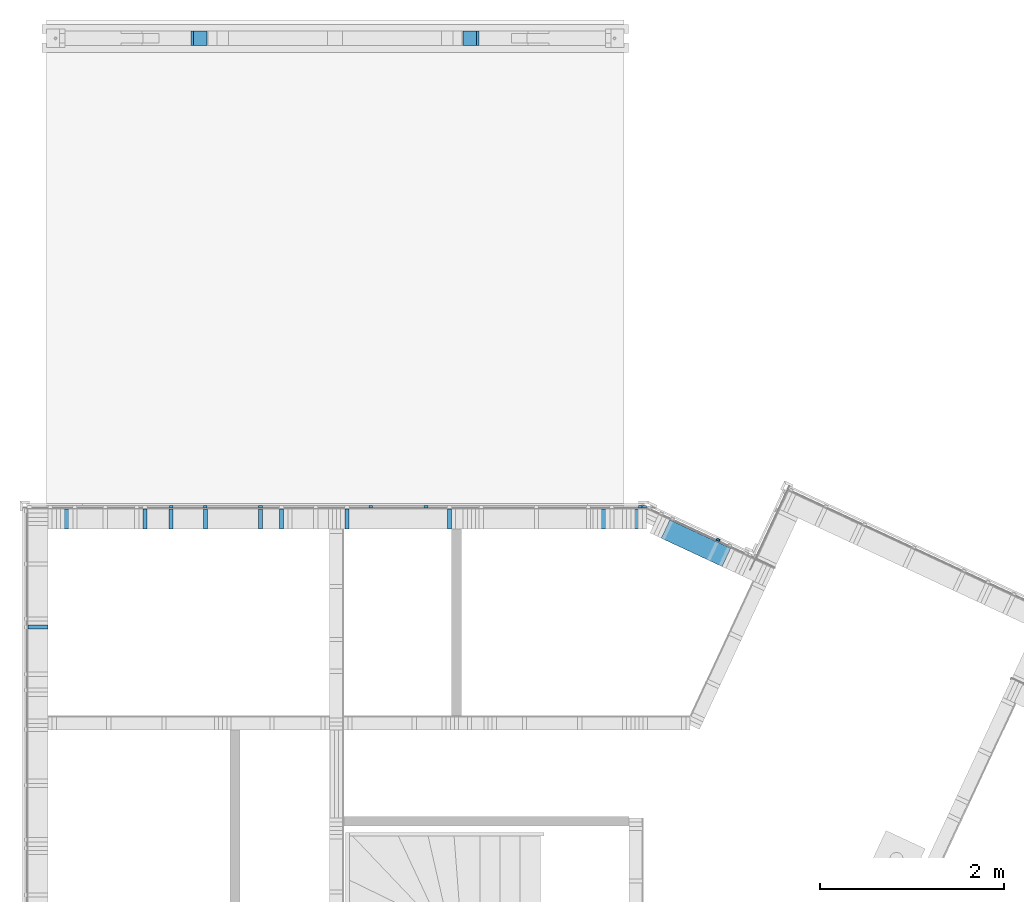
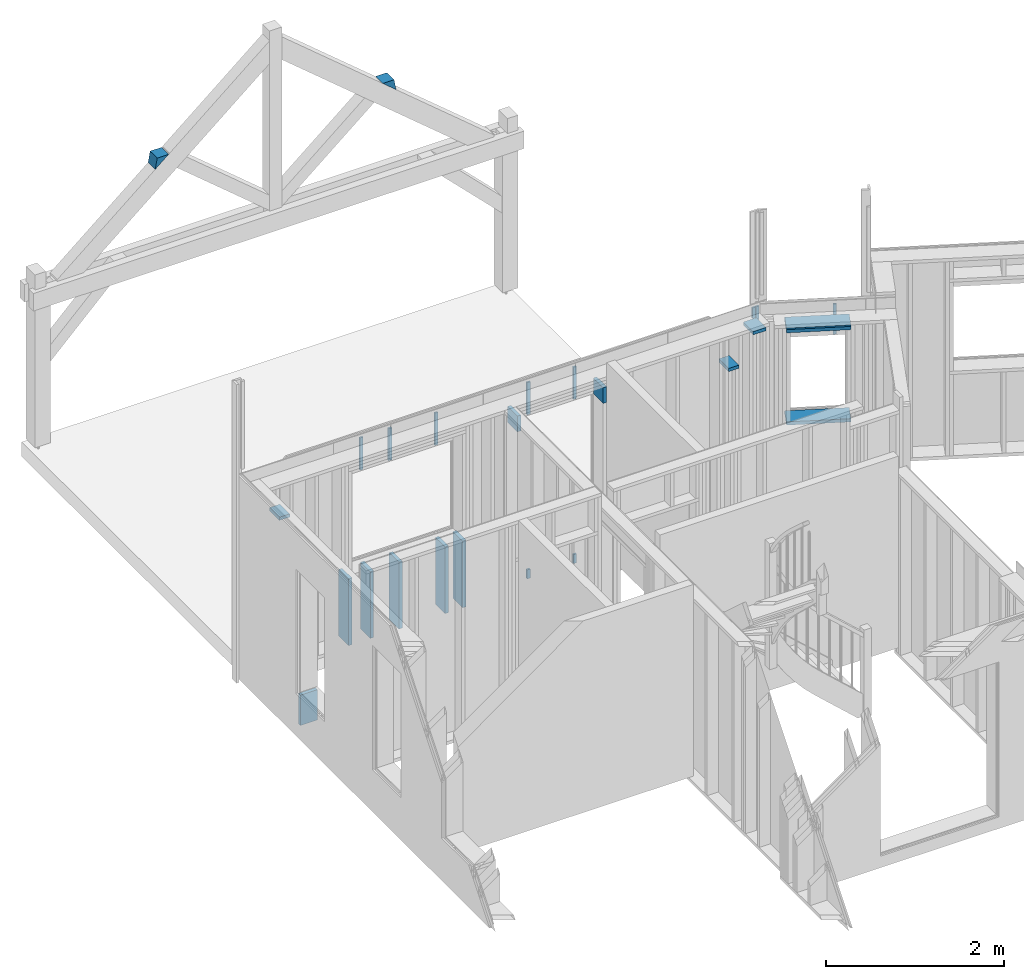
# One storey, part 20 of 34: 26 members.
"""IFC2X3 building model written with IfcOpenShell, lengths in metres."""

from ifc_helpers import new_model, si_unit, direction, frame, origin_with_axes, place, context, subcontext, project, spatial, faceted_brep, material, element, save


model = new_model("IFC2X3")

# Units and contexts
model_context = context("Model", 3, precision=1e-06, world=origin_with_axes(), true_north=direction((0.0, 1.0, 0.0)))
body_context = subcontext(model_context, "Body", "Model", "MODEL_VIEW")
ifc_project = project(units=[si_unit("LENGTHUNIT", "METRE"), si_unit("AREAUNIT", "SQUARE_METRE"), si_unit("VOLUMEUNIT", "CUBIC_METRE"), si_unit("PLANEANGLEUNIT", "RADIAN")], contexts=[model_context])

# Site, building, storey
site_placement = place(None, origin_with_axes())
site = spatial("IfcSite", under=ifc_project, at=site_placement, CompositionType="ELEMENT")
building_placement = place(site_placement, origin_with_axes())
building = spatial("IfcBuilding", under=site, at=building_placement, Name="Building 1", CompositionType="ELEMENT")
storey_placement = place(building_placement, origin_with_axes())
storey = spatial("IfcBuildingStorey", under=building, at=storey_placement, Name="Rez de chaussée", CompositionType="ELEMENT", Elevation=0.0)

# Members
ifc_material_1 = material(Name="Epicéa C24")
for number, where, z_axis, x_axis, name in (
    (1, (3.7431423, 7.921, 2.703), (0.0, 1.0, 0.0), (0.0, 0.0, -1.0), "latte 27/40"),
    (2, (4.3431423, 7.921, 2.703), (0.0, 1.0, 0.0), (0.0, 0.0, -1.0), "latte 27/40"),
):
    element("IfcMember", number, at=place(storey_placement, frame(where, z_axis=z_axis, x_axis=x_axis)), inside=storey, material=ifc_material_1, Name=name, context=body_context, shape_type="Brep", body=[
        faceted_brep([(0.443, 0.02, -0.012), (0.443, 0.02, 0.012), (0.443, -0.02, 0.012), (0.443, -0.02, -0.012), (0.0, 0.02, 0.012), (0.0, 0.02, -0.012), (0.0, -0.02, -0.012), (0.0, -0.02, 0.012)], [[[0, 1, 2, 3]], [[4, 5, 6, 7]], [[3, 6, 5, 0]], [[2, 7, 6, 3]], [[1, 4, 7, 2]], [[0, 5, 4, 1]]]),
    ])
member_1_placement = place(storey_placement, frame((3.7431423, 7.921, 0.129), z_axis=(0.0, 1.0, 0.0), x_axis=(0.0, 0.0, -1.0)))
element("IfcMember", 3, at=member_1_placement, inside=storey, material=ifc_material_1, Name="latte 27/40", context=body_context, shape_type="Brep", body=[
    faceted_brep([(0.124, 0.02, -0.012), (0.124, 0.02, 0.012), (0.124, -0.02, 0.012), (0.124, -0.02, -0.012), (0.0, 0.02, 0.012), (0.0, 0.02, -0.012), (0.0, -0.02, -0.012), (0.0, -0.02, 0.012)], [[[0, 1, 2, 3]], [[4, 5, 6, 7]], [[3, 6, 5, 0]], [[2, 7, 6, 3]], [[1, 4, 7, 2]], [[0, 5, 4, 1]]]),
])
for number, where, z_axis, x_axis, name in (
    (4, (2.5431423, 7.786, 1.007), (0.0, 1.0, 0.0), (0.0, 0.0, -1.0), "Montant"),
    (5, (1.9431423, 7.786, 1.007), (0.0, 1.0, 0.0), (0.0, 0.0, -1.0), "Montant"),
    (6, (1.5705712, 7.786, 1.007), (0.0, 1.0, 0.0), (0.0, 0.0, -1.0), "Montant"),
):
    element("IfcMember", number, at=place(storey_placement, frame(where, z_axis=z_axis, x_axis=x_axis)), inside=storey, material=ifc_material_1, Name=name, context=body_context, shape_type="Brep", body=[
        faceted_brep([(0.0, -0.0225, -0.11), (0.0, -0.0225, 0.11), (0.0, 0.0225, 0.11), (0.0, 0.0225, -0.11), (0.917, -0.0225, 0.11), (0.917, 0.0225, 0.11), (0.917, -0.0225, -0.11), (0.917, 0.0225, -0.11)], [[[0, 1, 2, 3]], [[2, 1, 4, 5]], [[1, 0, 6, 4]], [[0, 3, 7, 6]], [[6, 7, 5, 4]], [[3, 2, 5, 7]]]),
    ])
for number, where, z_axis, x_axis, name in (
    (7, (1.9431423, 7.921, 2.703), (0.0, 1.0, 0.0), (0.0, 0.0, -1.0), "latte 27/40"),
    (8, (1.5705712, 7.921, 2.703), (0.0, 1.0, 0.0), (0.0, 0.0, -1.0), "latte 27/40"),
):
    element("IfcMember", number, at=place(storey_placement, frame(where, z_axis=z_axis, x_axis=x_axis)), inside=storey, material=ifc_material_1, Name=name, context=body_context, shape_type="Brep", body=[
        faceted_brep([(0.443, 0.02, -0.012), (0.443, 0.02, 0.012), (0.443, -0.02, 0.012), (0.443, -0.02, -0.012), (0.0, 0.02, 0.012), (0.0, 0.02, -0.012), (0.0, -0.02, -0.012), (0.0, -0.02, 0.012)], [[[0, 1, 2, 3]], [[4, 5, 6, 7]], [[3, 6, 5, 0]], [[2, 7, 6, 3]], [[1, 4, 7, 2]], [[0, 5, 4, 1]]]),
    ])
member_2_placement = place(storey_placement, frame((4.3431423, 7.921, 0.129), z_axis=(0.0, 1.0, 0.0), x_axis=(0.0, 0.0, -1.0)))
element("IfcMember", 9, at=member_2_placement, inside=storey, material=ifc_material_1, Name="latte 27/40", context=body_context, shape_type="Brep", body=[
    faceted_brep([(0.124, 0.02, -0.012), (0.124, 0.02, 0.012), (0.124, -0.02, 0.012), (0.124, -0.02, -0.012), (0.0, 0.02, 0.012), (0.0, 0.02, -0.012), (0.0, -0.02, -0.012), (0.0, -0.02, 0.012)], [[[0, 1, 2, 3]], [[4, 5, 6, 7]], [[3, 6, 5, 0]], [[2, 7, 6, 3]], [[1, 4, 7, 2]], [[0, 5, 4, 1]]]),
])
member_3_placement = place(storey_placement, frame((6.6736423, 7.921, 2.703), z_axis=(0.0, 1.0, 0.0), x_axis=(0.0, 0.0, -1.0)))
element("IfcMember", 10, at=member_3_placement, inside=storey, material=ifc_material_1, Name="latte 27/40", context=body_context, shape_type="Brep", body=[
    faceted_brep([(0.145459, 0.02, -0.012), (0.145459, 0.02, 0.012), (0.145459, -0.02, 0.012), (0.145459, -0.02, -0.012), (0.0, 0.02, 0.012), (0.0, 0.02, -0.012), (0.0, -0.02, -0.012), (0.0, -0.02, 0.012)], [[[0, 1, 2, 3]], [[4, 5, 6, 7]], [[3, 6, 5, 0]], [[2, 7, 6, 3]], [[1, 4, 7, 2]], [[0, 5, 4, 1]]]),
])
member_4_placement = place(storey_placement, frame((2.5431423, 7.921, 2.703), z_axis=(0.0, 1.0, 0.0), x_axis=(0.0, 0.0, -1.0)))
element("IfcMember", 11, at=member_4_placement, inside=storey, material=ifc_material_1, Name="latte 27/40", context=body_context, shape_type="Brep", body=[
    faceted_brep([(0.443, 0.02, -0.012), (0.443, 0.02, 0.012), (0.443, -0.02, 0.012), (0.443, -0.02, -0.012), (0.0, 0.02, 0.012), (0.0, 0.02, -0.012), (0.0, -0.02, -0.012), (0.0, -0.02, 0.012)], [[[0, 1, 2, 3]], [[4, 5, 6, 7]], [[3, 6, 5, 0]], [[2, 7, 6, 3]], [[1, 4, 7, 2]], [[0, 5, 4, 1]]]),
])
ifc_material_2 = material(Name="NH II")
member_5_placement = place(storey_placement, frame((4.7765096, 13.0145, 3.4471192), z_axis=(0.6427876, 0.0, 0.7660444), x_axis=(0.7660444, 0.0, -0.6427876)))
element("IfcMember", 12, at=member_5_placement, inside=storey, material=ifc_material_2, Name="Echantignole", context=body_context, shape_type="Brep", body=[
    faceted_brep([(0.2268755, 0.08, -0.0475928), (0.2268755, -0.08, -0.0475928), (0.0, -0.08, -0.0475928), (0.0, 0.08, -0.0475928), (0.1134377, -0.08, 0.0475928), (0.1134377, 0.08, 0.0475928)], [[[0, 1, 2, 3]], [[2, 1, 4]], [[1, 0, 5, 4]], [[3, 2, 4, 5]], [[0, 3, 5]]]),
])
member_6_placement = place(storey_placement, frame((1.9314904, 13.0145, 3.4471192), z_axis=(-0.6427876, 0.0, 0.7660444), x_axis=(-0.7660444, 0.0, -0.6427876)))
element("IfcMember", 13, at=member_6_placement, inside=storey, material=ifc_material_2, Name="Echantignole", context=body_context, shape_type="Brep", body=[
    faceted_brep([(0.2268755, 0.08, -0.0475928), (0.2268755, -0.08, -0.0475928), (0.0, -0.08, -0.0475928), (0.0, 0.08, -0.0475928), (0.1134377, -0.08, 0.0475928), (0.1134377, 0.08, 0.0475928)], [[[0, 1, 2, 3]], [[2, 1, 4]], [[1, 0, 5, 4]], [[0, 3, 5]], [[3, 2, 4, 5]]]),
])
member_7_placement = place(storey_placement, frame((0.122, 6.6106735, 0.507), z_axis=(-1.0, 0.0, 0.0), x_axis=(0.0, 0.0, -1.0)))
element("IfcMember", 14, at=member_7_placement, inside=storey, material=ifc_material_1, Name="Montant", context=body_context, shape_type="Brep", body=[
    faceted_brep([(0.417, -0.0225, -0.11), (0.417, 0.0225, -0.11), (0.417, 0.0225, 0.11), (0.417, -0.0225, 0.11), (0.0, 0.0225, 0.11), (0.0, -0.0225, 0.11), (0.0, 0.0225, -0.11), (0.0, -0.0225, -0.11)], [[[0, 1, 2, 3]], [[4, 5, 3, 2]], [[6, 4, 2, 1]], [[7, 6, 1, 0]], [[5, 7, 0, 3]], [[7, 5, 4, 6]]]),
])
member_8_placement = place(storey_placement, frame((7.5198036, 7.5604887, 2.675), z_axis=(0.4226183, 0.9063078, 0.0), x_axis=(0.0, 0.0, -1.0)))
element("IfcMember", 15, at=member_8_placement, inside=storey, material=ifc_material_1, Name="latte 27/40", context=body_context, shape_type="Brep", body=[
    faceted_brep([(0.415, -0.02, -0.012), (0.415, -0.02, 0.012), (0.0, -0.02, 0.012), (0.0, -0.02, -0.012), (0.415, 0.02, -0.012), (0.0, 0.02, -0.012), (0.415, 0.02, 0.012), (0.0, 0.02, 0.012)], [[[0, 1, 2, 3]], [[4, 0, 3, 5]], [[6, 4, 5, 7]], [[1, 6, 7, 2]], [[0, 4, 6, 1]], [[2, 7, 5, 3]]]),
])
for number, where, z_axis, x_axis, name in (
    (16, (4.598, 7.786, 2.478), (0.0, 1.0, 0.0), (0.0, 0.0, -1.0), "Montant"),
    (17, (3.483, 7.786, 2.478), (0.0, 1.0, 0.0), (0.0, 0.0, -1.0), "Montant"),
):
    element("IfcMember", number, at=place(storey_placement, frame(where, z_axis=z_axis, x_axis=x_axis)), inside=storey, material=ifc_material_1, Name=name, context=body_context, shape_type="Brep", body=[
        faceted_brep([(0.0, 0.0225, 0.11), (0.0, 0.0225, -0.11), (0.0, -0.0225, -0.11), (0.0, -0.0225, 0.11), (0.218, 0.0225, -0.11), (0.218, -0.0225, -0.11), (0.218, 0.0225, 0.11), (0.218, -0.0225, 0.11)], [[[0, 1, 2, 3]], [[2, 1, 4, 5]], [[1, 0, 6, 4]], [[4, 6, 7, 5]], [[3, 2, 5, 7]], [[0, 3, 7, 6]]]),
    ])
for number, where, z_axis, x_axis, name in (
    (18, (1.2868743, 7.786, 1.007), (0.0, 1.0, 0.0), (0.0, 0.0, -1.0), "Montant"),
    (19, (2.7718743, 7.786, 1.007), (0.0, 1.0, 0.0), (0.0, 0.0, -1.0), "Montant"),
):
    element("IfcMember", number, at=place(storey_placement, frame(where, z_axis=z_axis, x_axis=x_axis)), inside=storey, material=ifc_material_1, Name=name, context=body_context, shape_type="Brep", body=[
        faceted_brep([(0.0, -0.0225, -0.11), (0.0, -0.0225, 0.11), (0.0, 0.0225, 0.11), (0.0, 0.0225, -0.11), (0.917, -0.0225, 0.11), (0.917, 0.0225, 0.11), (0.917, -0.0225, -0.11), (0.917, 0.0225, -0.11)], [[[0, 1, 2, 3]], [[2, 1, 4, 5]], [[1, 0, 6, 4]], [[0, 3, 7, 6]], [[6, 7, 5, 4]], [[3, 2, 5, 7]]]),
    ])
member_9_placement = place(storey_placement, frame((6.7186423, 7.921, 2.703), z_axis=(0.0, 1.0, 0.0), x_axis=(0.0, 0.0, -1.0)))
element("IfcMember", 20, at=member_9_placement, inside=storey, material=ifc_material_1, Name="latte chantier", context=body_context, shape_type="Brep", body=[
    faceted_brep([(0.1832185, 0.02, -0.012), (0.1832185, 0.02, 0.012), (0.1832185, -0.02, 0.012), (0.1832185, -0.02, -0.012), (0.0, 0.02, 0.012), (0.0, 0.02, -0.012), (0.0, -0.02, -0.012), (0.0, -0.02, 0.012)], [[[0, 1, 2, 3]], [[4, 5, 6, 7]], [[3, 6, 5, 0]], [[2, 7, 6, 3]], [[1, 4, 7, 2]], [[0, 5, 4, 1]]]),
])
for number, where, z_axis, x_axis, name in (
    (21, (7.6100252, 7.3694617, 1.2295), (0.4226183, 0.9063078, 0.0), (-0.9063078, 0.4226183, 0.0), "Montant"),
    (22, (7.6100252, 7.3694617, 2.4975), (0.4226183, 0.9063078, 0.0), (-0.9063078, 0.4226183, 0.0), "Montant"),
):
    element("IfcMember", number, at=place(storey_placement, frame(where, z_axis=z_axis, x_axis=x_axis)), inside=storey, material=ifc_material_1, Name=name, context=body_context, shape_type="Brep", body=[
        faceted_brep([(0.73, -0.0225, -0.11), (0.73, 0.0225, -0.11), (0.73, 0.0225, 0.11), (0.73, -0.0225, 0.11), (0.0, 0.0225, 0.11), (0.0, -0.0225, 0.11), (0.0, 0.0225, -0.11), (0.0, -0.0225, -0.11)], [[[0, 1, 2, 3]], [[3, 2, 4, 5]], [[2, 1, 6, 4]], [[6, 7, 5, 4]], [[0, 3, 5, 7]], [[1, 0, 7, 6]]]),
    ])
for number, where, z_axis, x_axis, name in (
    (23, (6.3415, 7.786, 2.1480755), (0.0, 1.0, 0.0), (-1.0, 0.0, 0.0), "Montant"),
    (24, (0.5015, 7.786, 2.1480755), (0.0, 1.0, 0.0), (-1.0, 0.0, 0.0), "Montant"),
):
    element("IfcMember", number, at=place(storey_placement, frame(where, z_axis=z_axis, x_axis=x_axis)), inside=storey, material=ifc_material_1, Name=name, context=body_context, shape_type="Brep", body=[
        faceted_brep([(0.0, -0.0225, 0.11), (0.0, 0.0225, 0.11), (0.0, 0.0225, -0.11), (0.0, -0.0225, -0.11), (0.135, 0.0225, 0.11), (0.135, 0.0225, -0.11), (0.135, -0.0225, 0.11), (0.135, -0.0225, -0.11)], [[[0, 1, 2, 3]], [[2, 1, 4, 5]], [[1, 0, 6, 4]], [[7, 5, 4, 6]], [[0, 3, 7, 6]], [[3, 2, 5, 7]]]),
    ])
member_10_placement = place(storey_placement, frame((6.526, 7.786, 2.5425), z_axis=(0.0, 1.0, 0.0), x_axis=(1.0, 0.0, 0.0)))
element("IfcMember", 25, at=member_10_placement, inside=storey, material=ifc_material_1, Name="Montant", context=body_context, shape_type="Brep", body=[
    faceted_brep([(0.0, 0.0225, -0.11), (0.0, -0.0225, -0.11), (0.0, -0.0225, 0.11), (0.0, 0.0225, 0.11), (0.1701424, -0.0225, -0.11), (0.1701424, -0.0225, 0.11), (0.1701424, 0.0225, -0.11), (0.1701424, 0.0225, 0.11)], [[[0, 1, 2, 3]], [[2, 1, 4, 5]], [[1, 0, 6, 4]], [[0, 3, 7, 6]], [[4, 6, 7, 5]], [[3, 2, 5, 7]]]),
])
member_11_placement = place(storey_placement, frame((7.6100252, 7.3694617, 2.53), z_axis=(0.4226183, 0.9063078, 0.0), x_axis=(-0.9063078, 0.4226183, 0.0)))
element("IfcMember", 26, at=member_11_placement, inside=storey, material=ifc_material_1, Name="Montant", context=body_context, shape_type="Brep", body=[
    faceted_brep([(0.73, 0.01, 0.11), (0.73, 0.01, -0.11), (0.0, 0.01, -0.11), (0.0, 0.01, 0.11), (0.73, -0.01, -0.11), (0.0, -0.01, -0.11), (0.73, -0.01, 0.11), (0.0, -0.01, 0.11)], [[[0, 1, 2, 3]], [[2, 1, 4, 5]], [[1, 0, 6, 4]], [[0, 3, 7, 6]], [[3, 2, 5, 7]], [[4, 6, 7, 5]]]),
])

save(model, "model.ifc")
